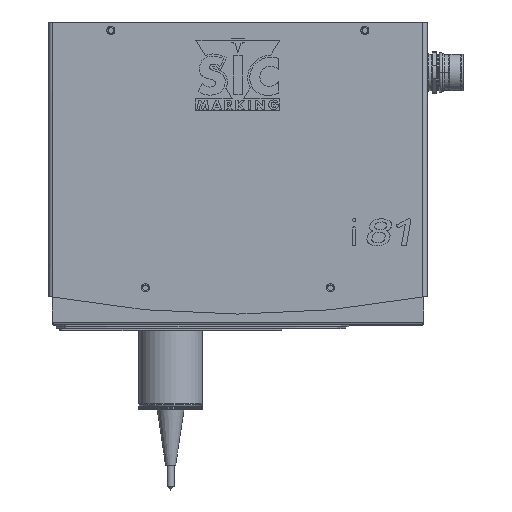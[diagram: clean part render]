
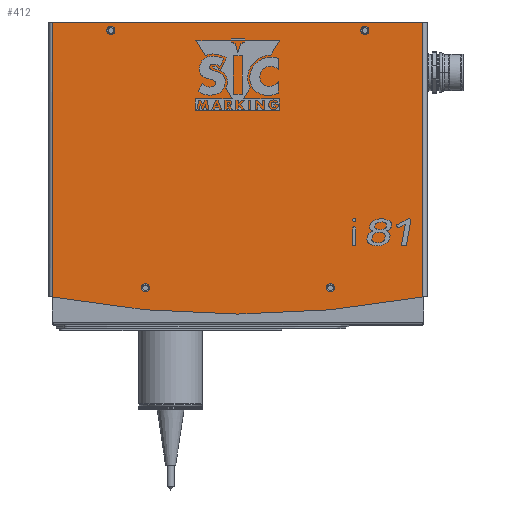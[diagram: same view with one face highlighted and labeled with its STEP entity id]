
A CAD part, top view. The second image highlights one B-rep face of the part: STEP entity #412.
In plain terms, the highlighted planar face has unit normal (0, 0, 1).
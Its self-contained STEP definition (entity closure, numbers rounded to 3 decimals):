
#264 = EDGE_LOOP ( 'NONE', ( #281, #33129, #32348, #32889 ) ) ;
#272 = EDGE_CURVE ( 'NONE', #280, #30653, #19860, .T. ) ;
#280 = VERTEX_POINT ( 'NONE', #19846 ) ;
#281 = ORIENTED_EDGE ( 'NONE', *, *, #272, .F. ) ;
#284 = EDGE_CURVE ( 'NONE', #1019, #1012, #19840, .T. ) ;
#323 = EDGE_CURVE ( 'NONE', #18099, #1015, #19957, .T. ) ;
#326 = EDGE_LOOP ( 'NONE', ( #410, #391 ) ) ;
#390 = ORIENTED_EDGE ( 'NONE', *, *, #323, .F. ) ;
#391 = ORIENTED_EDGE ( 'NONE', *, *, #7356, .F. ) ;
#394 = ORIENTED_EDGE ( 'NONE', *, *, #483, .F. ) ;
#396 = EDGE_LOOP ( 'NONE', ( #390, #402 ) ) ;
#399 = EDGE_LOOP ( 'NONE', ( #394, #400 ) ) ;
#400 = ORIENTED_EDGE ( 'NONE', *, *, #11372, .F. ) ;
#402 = ORIENTED_EDGE ( 'NONE', *, *, #18675, .F. ) ;
#403 = ORIENTED_EDGE ( 'NONE', *, *, #1018, .F. ) ;
#406 = EDGE_LOOP ( 'NONE', ( #407, #403 ) ) ;
#407 = ORIENTED_EDGE ( 'NONE', *, *, #284, .F. ) ;
#409 = EDGE_CURVE ( 'NONE', #994, #997, #20057, .T. ) ;
#410 = ORIENTED_EDGE ( 'NONE', *, *, #409, .F. ) ;
#412 = ADVANCED_FACE ( 'NONE', ( #20053, #20052, #20051, #20050, #20049 ), #20048, .T. ) ;
#483 = EDGE_CURVE ( 'NONE', #1020, #998, #20171, .T. ) ;
#954 = EDGE_CURVE ( 'NONE', #33130, #280, #20605, .T. ) ;
#994 = VERTEX_POINT ( 'NONE', #20658 ) ;
#997 = VERTEX_POINT ( 'NONE', #20653 ) ;
#998 = VERTEX_POINT ( 'NONE', #20652 ) ;
#1012 = VERTEX_POINT ( 'NONE', #20682 ) ;
#1015 = VERTEX_POINT ( 'NONE', #20674 ) ;
#1018 = EDGE_CURVE ( 'NONE', #1012, #1019, #20672, .T. ) ;
#1019 = VERTEX_POINT ( 'NONE', #20733 ) ;
#1020 = VERTEX_POINT ( 'NONE', #20732 ) ;
#1047 = EDGE_CURVE ( 'NONE', #33130, #37017, #20743, .T. ) ;
#7356 = EDGE_CURVE ( 'NONE', #997, #994, #21012, .T. ) ;
#7879 = CARTESIAN_POINT ( 'NONE',  ( -32.6, -5., 191.5 ) ) ;
#9107 = DIRECTION ( 'NONE',  ( 1., 0., 0. ) ) ;
#9108 = DIRECTION ( 'NONE',  ( 0., 0., 1. ) ) ;
#9109 = CARTESIAN_POINT ( 'NONE',  ( -35., -5., 191.5 ) ) ;
#9110 = AXIS2_PLACEMENT_3D ( 'NONE', #9109, #9108, #9107 ) ;
#9111 = CIRCLE ( 'NONE', #9110, 2.4 ) ;
#11372 = EDGE_CURVE ( 'NONE', #998, #1020, #27394, .T. ) ;
#18099 = VERTEX_POINT ( 'NONE', #7879 ) ;
#18675 = EDGE_CURVE ( 'NONE', #1015, #18099, #9111, .T. ) ;
#19388 = CARTESIAN_POINT ( 'NONE',  ( -186., -5., 191.5 ) ) ;
#19836 = DIRECTION ( 'NONE',  ( 1., 0., 0. ) ) ;
#19837 = DIRECTION ( 'NONE',  ( 0., 0., 1. ) ) ;
#19838 = CARTESIAN_POINT ( 'NONE',  ( -186., -5., 191.5 ) ) ;
#19839 = AXIS2_PLACEMENT_3D ( 'NONE', #19838, #19837, #19836 ) ;
#19840 = CIRCLE ( 'NONE', #19839, 2.4 ) ;
#19846 = CARTESIAN_POINT ( 'NONE',  ( -220.5, -163.472, 191.5 ) ) ;
#19857 = DIRECTION ( 'NONE',  ( 0., 1., 0. ) ) ;
#19858 = VECTOR ( 'NONE', #19857, 1000. ) ;
#19859 = CARTESIAN_POINT ( 'NONE',  ( -220.5, -200., 191.5 ) ) ;
#19860 = LINE ( 'NONE', #19859, #19858 ) ;
#19953 = DIRECTION ( 'NONE',  ( 1., 0., 0. ) ) ;
#19954 = DIRECTION ( 'NONE',  ( 0., 0., 1. ) ) ;
#19955 = CARTESIAN_POINT ( 'NONE',  ( -35., -5., 191.5 ) ) ;
#19956 = AXIS2_PLACEMENT_3D ( 'NONE', #19955, #19954, #19953 ) ;
#19957 = CIRCLE ( 'NONE', #19956, 2.4 ) ;
#20043 = DIRECTION ( 'NONE',  ( 1., 0., 0. ) ) ;
#20044 = DIRECTION ( 'NONE',  ( 0., 0., 1. ) ) ;
#20045 = AXIS2_PLACEMENT_3D ( 'NONE', #20047, #20044, #20043 ) ;
#20047 = CARTESIAN_POINT ( 'NONE',  ( -223., -200., 191.5 ) ) ;
#20048 = PLANE ( 'NONE',  #20045 ) ;
#20049 = FACE_OUTER_BOUND ( 'NONE', #264, .T. ) ;
#20050 = FACE_BOUND ( 'NONE', #406, .T. ) ;
#20051 = FACE_BOUND ( 'NONE', #396, .T. ) ;
#20052 = FACE_BOUND ( 'NONE', #399, .T. ) ;
#20053 = FACE_BOUND ( 'NONE', #326, .T. ) ;
#20054 = DIRECTION ( 'NONE',  ( 1., 0., 0. ) ) ;
#20055 = DIRECTION ( 'NONE',  ( 0., 0., 1. ) ) ;
#20056 = AXIS2_PLACEMENT_3D ( 'NONE', #20063, #20055, #20054 ) ;
#20057 = CIRCLE ( 'NONE', #20056, 2.4 ) ;
#20063 = CARTESIAN_POINT ( 'NONE',  ( -55.5, -158., 191.5 ) ) ;
#20160 = DIRECTION ( 'NONE',  ( 0., 0., 1. ) ) ;
#20167 = DIRECTION ( 'NONE',  ( 1., 0., 0. ) ) ;
#20168 = DIRECTION ( 'NONE',  ( 0., 0., 1. ) ) ;
#20169 = CARTESIAN_POINT ( 'NONE',  ( -165.5, -158., 191.5 ) ) ;
#20170 = AXIS2_PLACEMENT_3D ( 'NONE', #20169, #20168, #20167 ) ;
#20171 = CIRCLE ( 'NONE', #20170, 2.4 ) ;
#20416 = DIRECTION ( 'NONE',  ( 1., 0., 0. ) ) ;
#20549 = CARTESIAN_POINT ( 'NONE',  ( -110.5, 426.359, 191.5 ) ) ;
#20602 = DIRECTION ( 'NONE',  ( 1., 0., 0. ) ) ;
#20603 = DIRECTION ( 'NONE',  ( 0., 0., -1. ) ) ;
#20604 = AXIS2_PLACEMENT_3D ( 'NONE', #20549, #20603, #20602 ) ;
#20605 = CIRCLE ( 'NONE', #20604, 600. ) ;
#20652 = CARTESIAN_POINT ( 'NONE',  ( -167.9, -158., 191.5 ) ) ;
#20653 = CARTESIAN_POINT ( 'NONE',  ( -57.9, -158., 191.5 ) ) ;
#20658 = CARTESIAN_POINT ( 'NONE',  ( -53.1, -158., 191.5 ) ) ;
#20671 = AXIS2_PLACEMENT_3D ( 'NONE', #19388, #20160, #20416 ) ;
#20672 = CIRCLE ( 'NONE', #20671, 2.4 ) ;
#20674 = CARTESIAN_POINT ( 'NONE',  ( -37.4, -5., 191.5 ) ) ;
#20682 = CARTESIAN_POINT ( 'NONE',  ( -188.4, -5., 191.5 ) ) ;
#20732 = CARTESIAN_POINT ( 'NONE',  ( -163.1, -158., 191.5 ) ) ;
#20733 = CARTESIAN_POINT ( 'NONE',  ( -183.6, -5., 191.5 ) ) ;
#20740 = DIRECTION ( 'NONE',  ( 0., 1., 0. ) ) ;
#20741 = VECTOR ( 'NONE', #20740, 1000. ) ;
#20742 = CARTESIAN_POINT ( 'NONE',  ( -0.5, -200., 191.5 ) ) ;
#20743 = LINE ( 'NONE', #20742, #20741 ) ;
#21008 = DIRECTION ( 'NONE',  ( 1., 0., 0. ) ) ;
#21009 = DIRECTION ( 'NONE',  ( 0., 0., 1. ) ) ;
#21010 = CARTESIAN_POINT ( 'NONE',  ( -55.5, -158., 191.5 ) ) ;
#21011 = AXIS2_PLACEMENT_3D ( 'NONE', #21010, #21009, #21008 ) ;
#21012 = CIRCLE ( 'NONE', #21011, 2.4 ) ;
#27387 = DIRECTION ( 'NONE',  ( 1., 0., 0. ) ) ;
#27388 = DIRECTION ( 'NONE',  ( 0., 0., 1. ) ) ;
#27389 = CARTESIAN_POINT ( 'NONE',  ( -165.5, -158., 191.5 ) ) ;
#27390 = AXIS2_PLACEMENT_3D ( 'NONE', #27389, #27388, #27387 ) ;
#27394 = CIRCLE ( 'NONE', #27390, 2.4 ) ;
#30653 = VERTEX_POINT ( 'NONE', #31342 ) ;
#31342 = CARTESIAN_POINT ( 'NONE',  ( -220.5, 0., 191.5 ) ) ;
#31518 = CARTESIAN_POINT ( 'NONE',  ( -0.5, -163.472, 191.5 ) ) ;
#32348 = ORIENTED_EDGE ( 'NONE', *, *, #1047, .T. ) ;
#32889 = ORIENTED_EDGE ( 'NONE', *, *, #37019, .F. ) ;
#33129 = ORIENTED_EDGE ( 'NONE', *, *, #954, .F. ) ;
#33130 = VERTEX_POINT ( 'NONE', #31518 ) ;
#34522 = DIRECTION ( 'NONE',  ( 1., 0., 0. ) ) ;
#34523 = VECTOR ( 'NONE', #34522, 1000. ) ;
#34524 = CARTESIAN_POINT ( 'NONE',  ( -223., 0., 191.5 ) ) ;
#34530 = LINE ( 'NONE', #34524, #34523 ) ;
#34534 = CARTESIAN_POINT ( 'NONE',  ( -0.5, 0., 191.5 ) ) ;
#37017 = VERTEX_POINT ( 'NONE', #34534 ) ;
#37019 = EDGE_CURVE ( 'NONE', #30653, #37017, #34530, .T. ) ;
